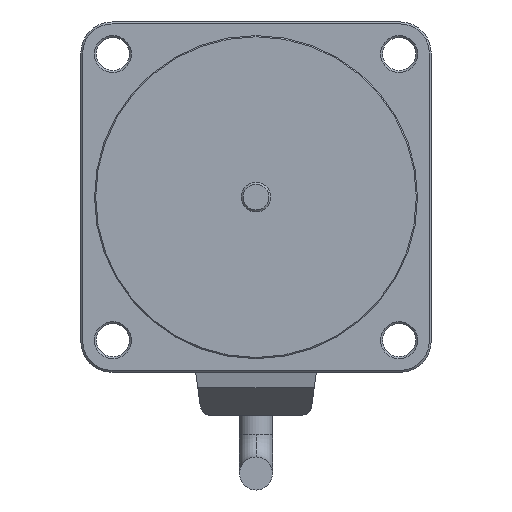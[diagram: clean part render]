
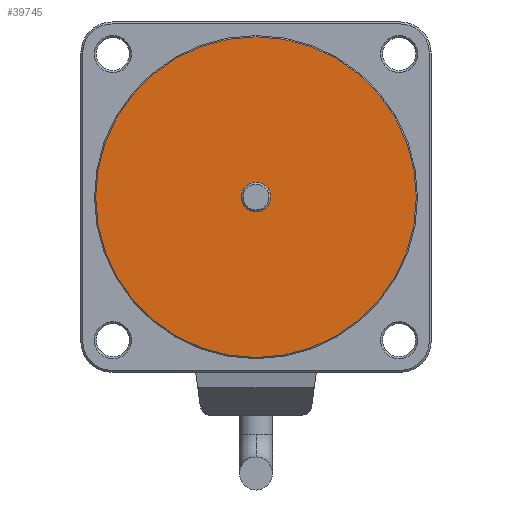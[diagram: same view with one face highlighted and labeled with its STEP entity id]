
A CAD part, front view. The second image highlights one B-rep face of the part: STEP entity #39745.
In plain terms, the highlighted planar face has unit normal (0, -1, 0).
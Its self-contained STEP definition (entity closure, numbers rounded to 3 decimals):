
#3596 = DIRECTION ( 'NONE',  ( 0., 1., 0. ) ) ;
#3867 = VERTEX_POINT ( 'NONE', #15612 ) ;
#5826 = AXIS2_PLACEMENT_3D ( 'NONE', #10549, #16864, #33362 ) ;
#5951 = DIRECTION ( 'NONE',  ( -1., 0., 0. ) ) ;
#6922 = ORIENTED_EDGE ( 'NONE', *, *, #14070, .T. ) ;
#8098 = EDGE_CURVE ( 'NONE', #25903, #34563, #17907, .T. ) ;
#8688 = CARTESIAN_POINT ( 'NONE',  ( 3.8, -2., 0. ) ) ;
#9098 = CIRCLE ( 'NONE', #27973, 3.8 ) ;
#9527 = CARTESIAN_POINT ( 'NONE',  ( 0., -2., 0. ) ) ;
#10310 = DIRECTION ( 'NONE',  ( 0., 1., 0. ) ) ;
#10549 = CARTESIAN_POINT ( 'NONE',  ( 0., -2., 0. ) ) ;
#11623 = AXIS2_PLACEMENT_3D ( 'NONE', #19366, #10310, #29107 ) ;
#12848 = FACE_BOUND ( 'NONE', #38670, .T. ) ;
#14070 = EDGE_CURVE ( 'NONE', #40228, #3867, #15903, .T. ) ;
#14500 = ORIENTED_EDGE ( 'NONE', *, *, #19032, .F. ) ;
#15612 = CARTESIAN_POINT ( 'NONE',  ( -3.8, -2., 0. ) ) ;
#15903 = CIRCLE ( 'NONE', #5826, 3.8 ) ;
#16864 = DIRECTION ( 'NONE',  ( 0., 1., 0. ) ) ;
#17907 = CIRCLE ( 'NONE', #35452, 41.2 ) ;
#19032 = EDGE_CURVE ( 'NONE', #34563, #25903, #33526, .T. ) ;
#19366 = CARTESIAN_POINT ( 'NONE',  ( 0., -2., 0. ) ) ;
#19973 = AXIS2_PLACEMENT_3D ( 'NONE', #9527, #22387, #5951 ) ;
#21109 = DIRECTION ( 'NONE',  ( -1., 0., 0. ) ) ;
#22387 = DIRECTION ( 'NONE',  ( 0., 1., 0. ) ) ;
#22650 = CARTESIAN_POINT ( 'NONE',  ( -41.2, -2., 0. ) ) ;
#24365 = ORIENTED_EDGE ( 'NONE', *, *, #24501, .T. ) ;
#24501 = EDGE_CURVE ( 'NONE', #3867, #40228, #9098, .T. ) ;
#25903 = VERTEX_POINT ( 'NONE', #22650 ) ;
#27973 = AXIS2_PLACEMENT_3D ( 'NONE', #32561, #3596, #29380 ) ;
#29107 = DIRECTION ( 'NONE',  ( 1., 0., 0. ) ) ;
#29380 = DIRECTION ( 'NONE',  ( -1., 0., 0. ) ) ;
#32561 = CARTESIAN_POINT ( 'NONE',  ( 0., -2., 0. ) ) ;
#33310 = EDGE_LOOP ( 'NONE', ( #33363, #14500 ) ) ;
#33362 = DIRECTION ( 'NONE',  ( -1., 0., 0. ) ) ;
#33363 = ORIENTED_EDGE ( 'NONE', *, *, #8098, .F. ) ;
#33526 = CIRCLE ( 'NONE', #19973, 41.2 ) ;
#33829 = CARTESIAN_POINT ( 'NONE',  ( 0., -2., 0. ) ) ;
#34563 = VERTEX_POINT ( 'NONE', #38200 ) ;
#35452 = AXIS2_PLACEMENT_3D ( 'NONE', #33829, #39814, #21109 ) ;
#36087 = PLANE ( 'NONE',  #11623 ) ;
#38200 = CARTESIAN_POINT ( 'NONE',  ( 41.2, -2., 0. ) ) ;
#38670 = EDGE_LOOP ( 'NONE', ( #24365, #6922 ) ) ;
#39745 = ADVANCED_FACE ( 'NONE', ( #41875, #12848 ), #36087, .F. ) ;
#39814 = DIRECTION ( 'NONE',  ( 0., 1., 0. ) ) ;
#40228 = VERTEX_POINT ( 'NONE', #8688 ) ;
#41875 = FACE_OUTER_BOUND ( 'NONE', #33310, .T. ) ;
